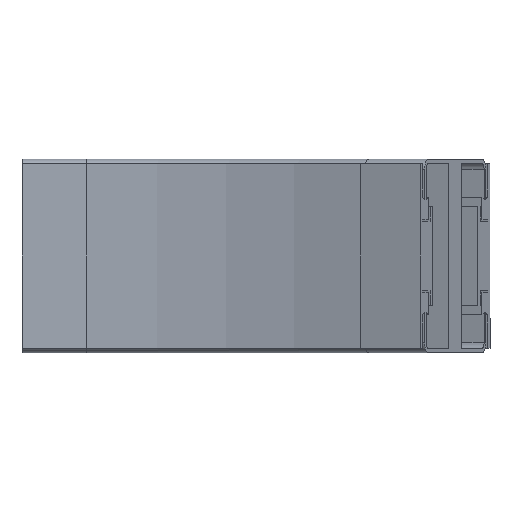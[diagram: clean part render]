
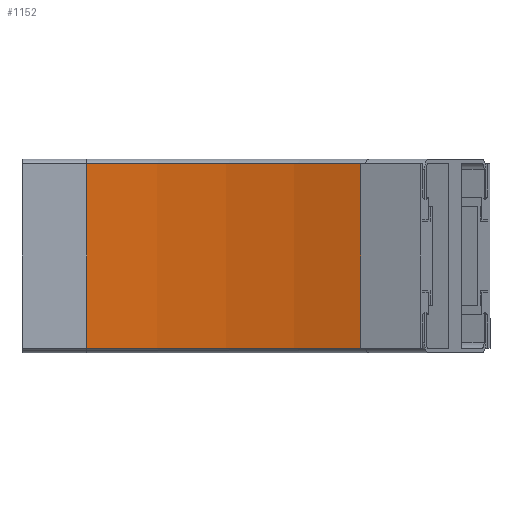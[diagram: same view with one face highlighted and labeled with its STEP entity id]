
A CAD part, front view. The second image highlights one B-rep face of the part: STEP entity #1152.
In plain terms, the highlighted cylindrical face has radius 443.5 mm (diameter 887 mm), a partial arc.
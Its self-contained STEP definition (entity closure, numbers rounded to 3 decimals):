
#60 = VERTEX_POINT ( 'NONE', #3810 ) ;
#166 = CARTESIAN_POINT ( 'NONE',  ( 40., -56.5, 57.15 ) ) ;
#326 = CARTESIAN_POINT ( 'NONE',  ( 209.72, -90.259, -57.15 ) ) ;
#568 = CIRCLE ( 'NONE', #1111, 443.5 ) ;
#706 = DIRECTION ( 'NONE',  ( 0., 0., -1. ) ) ;
#858 = CARTESIAN_POINT ( 'NONE',  ( 40., -500., 0. ) ) ;
#877 = ORIENTED_EDGE ( 'NONE', *, *, #2827, .F. ) ;
#1016 = CARTESIAN_POINT ( 'NONE',  ( 40., -56.5, -57.15 ) ) ;
#1078 = EDGE_LOOP ( 'NONE', ( #5313, #877, #2201, #2501 ) ) ;
#1111 = AXIS2_PLACEMENT_3D ( 'NONE', #3756, #2027, #2465 ) ;
#1152 = ADVANCED_FACE ( 'NONE', ( #3695 ), #1363, .F. ) ;
#1363 = CYLINDRICAL_SURFACE ( 'NONE', #4431, 443.5 ) ;
#1393 = VERTEX_POINT ( 'NONE', #4138 ) ;
#1410 = VERTEX_POINT ( 'NONE', #166 ) ;
#1666 = DIRECTION ( 'NONE',  ( 0., 0., 1. ) ) ;
#1979 = CARTESIAN_POINT ( 'NONE',  ( 40., -56.5, 0. ) ) ;
#2027 = DIRECTION ( 'NONE',  ( 0., 0., 1. ) ) ;
#2100 = LINE ( 'NONE', #1979, #4379 ) ;
#2201 = ORIENTED_EDGE ( 'NONE', *, *, #3454, .T. ) ;
#2258 = DIRECTION ( 'NONE',  ( 1., 0., 0. ) ) ;
#2351 = CIRCLE ( 'NONE', #4762, 443.5 ) ;
#2465 = DIRECTION ( 'NONE',  ( 1., 0., 0. ) ) ;
#2501 = ORIENTED_EDGE ( 'NONE', *, *, #4969, .T. ) ;
#2566 = VERTEX_POINT ( 'NONE', #1016 ) ;
#2827 = EDGE_CURVE ( 'NONE', #60, #2566, #568, .T. ) ;
#3159 = EDGE_CURVE ( 'NONE', #1410, #2566, #2100, .T. ) ;
#3177 = VECTOR ( 'NONE', #3208, 1000. ) ;
#3208 = DIRECTION ( 'NONE',  ( 0., 0., 1. ) ) ;
#3454 = EDGE_CURVE ( 'NONE', #60, #1393, #5494, .T. ) ;
#3695 = FACE_OUTER_BOUND ( 'NONE', #1078, .T. ) ;
#3756 = CARTESIAN_POINT ( 'NONE',  ( 40., -500., -57.15 ) ) ;
#3810 = CARTESIAN_POINT ( 'NONE',  ( 209.72, -90.259, -57.15 ) ) ;
#4138 = CARTESIAN_POINT ( 'NONE',  ( 209.72, -90.259, 57.15 ) ) ;
#4253 = CARTESIAN_POINT ( 'NONE',  ( 40., -500., 57.15 ) ) ;
#4379 = VECTOR ( 'NONE', #706, 1000. ) ;
#4400 = DIRECTION ( 'NONE',  ( 0., 0., 1. ) ) ;
#4431 = AXIS2_PLACEMENT_3D ( 'NONE', #858, #4400, #2258 ) ;
#4690 = DIRECTION ( 'NONE',  ( 1., 0., 0. ) ) ;
#4762 = AXIS2_PLACEMENT_3D ( 'NONE', #4253, #1666, #4690 ) ;
#4969 = EDGE_CURVE ( 'NONE', #1393, #1410, #2351, .T. ) ;
#5313 = ORIENTED_EDGE ( 'NONE', *, *, #3159, .T. ) ;
#5494 = LINE ( 'NONE', #326, #3177 ) ;
